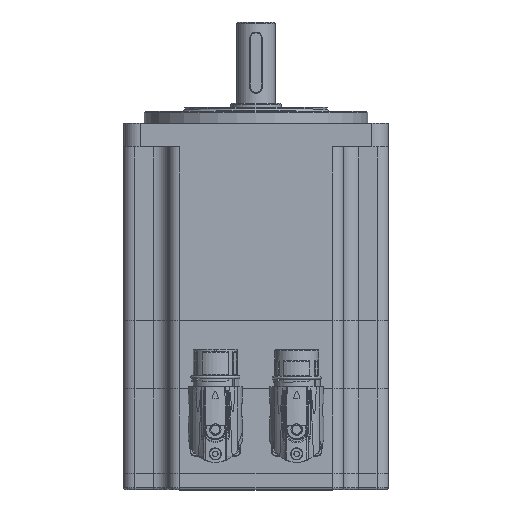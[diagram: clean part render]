
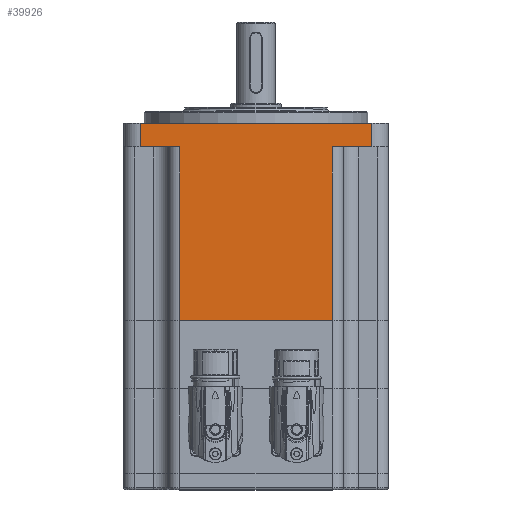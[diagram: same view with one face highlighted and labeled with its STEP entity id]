
A CAD part, top view. The second image highlights one B-rep face of the part: STEP entity #39926.
In plain terms, the highlighted planar face has unit normal (0, 0, 1).
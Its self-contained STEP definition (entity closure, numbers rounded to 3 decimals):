
#12877=LINE('',#65564,#14776);
#12919=LINE('',#66532,#14818);
#12924=LINE('',#66559,#14823);
#12943=LINE('',#66635,#14842);
#12944=LINE('',#66636,#14843);
#12945=LINE('',#66638,#14844);
#12946=LINE('',#66640,#14845);
#12947=LINE('',#66641,#14846);
#14776=VECTOR('',#49222,1000.);
#14818=VECTOR('',#49690,1000.);
#14823=VECTOR('',#49713,1000.);
#14842=VECTOR('',#49792,1000.);
#14843=VECTOR('',#49793,1000.);
#14844=VECTOR('',#49794,1000.);
#14845=VECTOR('',#49795,1000.);
#14846=VECTOR('',#49796,1000.);
#21948=ORIENTED_EDGE('',*,*,#27032,.F.);
#21949=ORIENTED_EDGE('',*,*,#27325,.T.);
#21950=ORIENTED_EDGE('',*,*,#27289,.F.);
#21951=ORIENTED_EDGE('',*,*,#27326,.T.);
#21952=ORIENTED_EDGE('',*,*,#27327,.F.);
#21953=ORIENTED_EDGE('',*,*,#27328,.T.);
#21954=ORIENTED_EDGE('',*,*,#27277,.F.);
#21955=ORIENTED_EDGE('',*,*,#27329,.T.);
#27032=EDGE_CURVE('',#30437,#30438,#12877,.T.);
#27277=EDGE_CURVE('',#30592,#30593,#12919,.T.);
#27289=EDGE_CURVE('',#30604,#30605,#12924,.T.);
#27325=EDGE_CURVE('',#30437,#30605,#12943,.T.);
#27326=EDGE_CURVE('',#30604,#30632,#12944,.T.);
#27327=EDGE_CURVE('',#30633,#30632,#12945,.T.);
#27328=EDGE_CURVE('',#30633,#30593,#12946,.F.);
#27329=EDGE_CURVE('',#30592,#30438,#12947,.T.);
#30437=VERTEX_POINT('',#65565);
#30438=VERTEX_POINT('',#65566);
#30592=VERTEX_POINT('',#66533);
#30593=VERTEX_POINT('',#66534);
#30604=VERTEX_POINT('',#66558);
#30605=VERTEX_POINT('',#66560);
#30632=VERTEX_POINT('',#66637);
#30633=VERTEX_POINT('',#66639);
#34664=EDGE_LOOP('',(#21948,#21949,#21950,#21951,#21952,#21953,#21954,#21955));
#37180=FACE_BOUND('',#34664,.T.);
#38190=PLANE('',#43039);
#39926=ADVANCED_FACE('',(#37180),#38190,.T.);
#43039=AXIS2_PLACEMENT_3D('',#66634,#49790,#49791);
#49222=DIRECTION('',(1.,0.,0.));
#49690=DIRECTION('',(1.,0.,0.));
#49713=DIRECTION('',(1.,0.,0.));
#49790=DIRECTION('',(0.,0.,1.));
#49791=DIRECTION('',(0.,-1.,0.));
#49792=DIRECTION('',(0.,-1.,0.));
#49793=DIRECTION('',(0.,-1.,0.));
#49794=DIRECTION('',(-1.,0.,0.));
#49795=DIRECTION('',(0.,-1.,0.));
#49796=DIRECTION('',(0.,1.,0.));
#65564=CARTESIAN_POINT('',(65.,98.2,65.));
#65565=CARTESIAN_POINT('',(-37.5,98.2,65.));
#65566=CARTESIAN_POINT('',(37.5,98.2,65.));
#66532=CARTESIAN_POINT('',(65.,12.7,65.));
#66533=CARTESIAN_POINT('',(37.5,12.7,65.));
#66534=CARTESIAN_POINT('',(57.,12.7,65.));
#66558=CARTESIAN_POINT('',(-57.,12.7,65.));
#66559=CARTESIAN_POINT('',(65.,12.7,65.));
#66560=CARTESIAN_POINT('',(-37.5,12.7,65.));
#66634=CARTESIAN_POINT('',(65.,309.164,65.));
#66635=CARTESIAN_POINT('',(-37.5,309.164,65.));
#66636=CARTESIAN_POINT('',(-57.,309.164,65.));
#66637=CARTESIAN_POINT('',(-57.,1.2,65.));
#66638=CARTESIAN_POINT('',(65.,1.2,65.));
#66639=CARTESIAN_POINT('',(57.,1.2,65.));
#66640=CARTESIAN_POINT('',(57.,309.164,65.));
#66641=CARTESIAN_POINT('',(37.5,309.164,65.));
